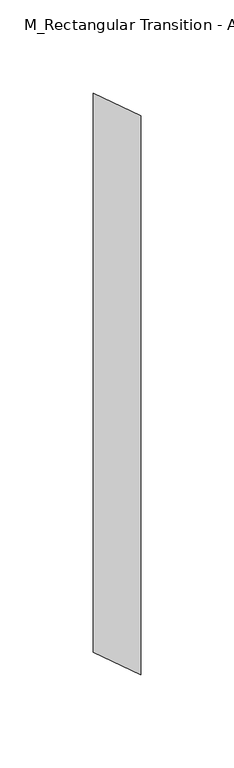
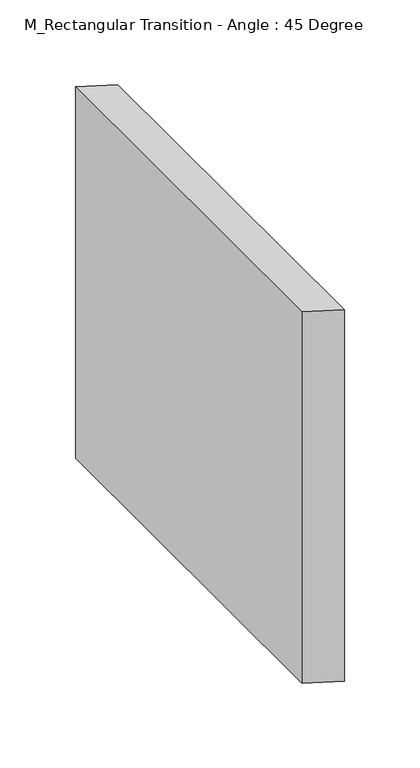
"""IFC4 building model written with IfcOpenShell, lengths in millimetres: duct fitting geometry, M_Rectangular Transition - Angle : 45 Degree."""

from ifc_helpers import new_model, si_unit, frame, origin, place, context, project, spatial, polyline, outline, extrude, source, transform, mapped, element, save


def m_rectangular_transition_angle_45_degree_11ff4bd1(model_context):
    return source(origin(), model_context, "Body", "SweptSolid", [
        extrude(outline(polyline([(-150.0, 0.0), (150.0, 0.0), (137.993158, -25.4), (-162.006842, -25.4), (-150.0, 0.0)])), frame((0.0, 0.0, -150.0), z_axis=(-1.2200906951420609e-11, 0.0, 1.0), x_axis=(0.0, 1.0, 0.0)), (0.0, 0.0, 1.0), 300.0),
        extrude(outline(polyline([(0.0, -150.0), (0.0, 150.0), (25.4, 137.993158), (25.4, -162.006842), (0.0, -150.0)])), frame((0.0, 0.0, -150.0), z_axis=(0.0, 0.0, 1.0), x_axis=(1.0, 0.0, 0.0)), (0.0, 0.0, 1.0), 300.0),
        extrude(outline(polyline([(0.0, -150.0), (0.0, 150.0), (25.4, 137.993158), (25.4, -162.006842), (0.0, -150.0)])), frame((0.0, 0.0, -150.0), z_axis=(0.0, 0.0, 1.0), x_axis=(1.0, 0.0, 0.0)), (0.0, 0.0, 1.0), 300.0),
    ])


if __name__ == "__main__":
    model = new_model("IFC4")
    model_context = context("Model", 3, world=origin())
    ifc_project = project(units=[si_unit("LENGTHUNIT", "METRE", prefix="MILLI")], contexts=[model_context])
    site = spatial("IfcSite", under=ifc_project)
    building = spatial("IfcBuilding", under=site)
    placement = place(None, origin())
    m_rectangular_transition_angle_45_degree_shape = m_rectangular_transition_angle_45_degree_11ff4bd1(model_context)
    element("IfcDuctFitting", 1, ObjectType="M_Rectangular Transition - Angle : 45 Degree", at=placement, inside=building, context=model_context, shape_type="MappedRepresentation", body=[
        mapped(m_rectangular_transition_angle_45_degree_shape, transform((0.0, 0.0, 0.0), x_axis=(1.0, 0.0, 0.0), y_axis=(0.0, 1.0, 0.0), z_axis=(0.0, 0.0, 1.0))),
    ])
    save(model, "model.ifc")
